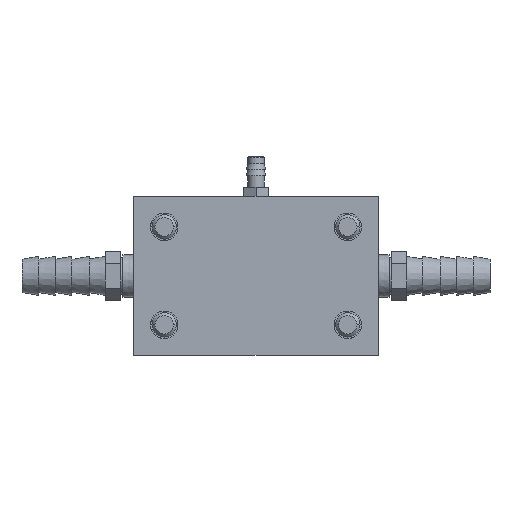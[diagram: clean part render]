
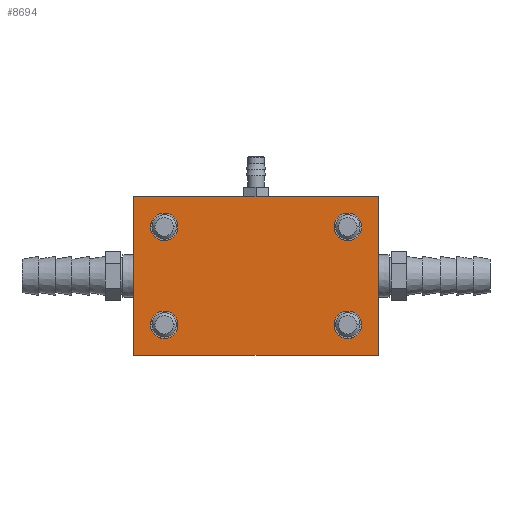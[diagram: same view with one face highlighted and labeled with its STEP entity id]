
A CAD part, left-side view. The second image highlights one B-rep face of the part: STEP entity #8694.
In plain terms, the highlighted planar face has unit normal (-1, 0, 0).
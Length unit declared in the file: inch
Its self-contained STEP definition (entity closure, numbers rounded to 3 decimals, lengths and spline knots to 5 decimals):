
#8432=CARTESIAN_POINT('',(-3.25,-0.9375,-0.5));
#8433=DIRECTION('',(1.,0.,0.));
#8434=DIRECTION('',(0.,-1.,0.));
#8435=AXIS2_PLACEMENT_3D('',#8432,#8433,#8434);
#8437=CARTESIAN_POINT('',(-3.25,-0.9375,-0.5));
#8438=DIRECTION('',(1.,0.,0.));
#8439=DIRECTION('',(0.,1.,0.));
#8440=AXIS2_PLACEMENT_3D('',#8437,#8438,#8439);
#8442=CARTESIAN_POINT('',(-3.25,0.9375,-0.5));
#8443=DIRECTION('',(1.,0.,0.));
#8444=DIRECTION('',(0.,-1.,0.));
#8445=AXIS2_PLACEMENT_3D('',#8442,#8443,#8444);
#8447=CARTESIAN_POINT('',(-3.25,0.9375,-0.5));
#8448=DIRECTION('',(1.,0.,0.));
#8449=DIRECTION('',(0.,1.,0.));
#8450=AXIS2_PLACEMENT_3D('',#8447,#8448,#8449);
#8452=CARTESIAN_POINT('',(-3.25,0.9375,0.5));
#8453=DIRECTION('',(1.,0.,0.));
#8454=DIRECTION('',(0.,-1.,0.));
#8455=AXIS2_PLACEMENT_3D('',#8452,#8453,#8454);
#8457=CARTESIAN_POINT('',(-3.25,0.9375,0.5));
#8458=DIRECTION('',(1.,0.,0.));
#8459=DIRECTION('',(0.,1.,0.));
#8460=AXIS2_PLACEMENT_3D('',#8457,#8458,#8459);
#8462=CARTESIAN_POINT('',(-3.25,-0.9375,0.5));
#8463=DIRECTION('',(1.,0.,0.));
#8464=DIRECTION('',(0.,-1.,0.));
#8465=AXIS2_PLACEMENT_3D('',#8462,#8463,#8464);
#8467=CARTESIAN_POINT('',(-3.25,-0.9375,0.5));
#8468=DIRECTION('',(1.,0.,0.));
#8469=DIRECTION('',(0.,1.,0.));
#8470=AXIS2_PLACEMENT_3D('',#8467,#8468,#8469);
#8564=DIRECTION('',(0.,0.,-1.));
#8565=VECTOR('',#8564,1.625);
#8566=CARTESIAN_POINT('',(-3.25,-1.25,0.8125));
#8567=LINE('',#8566,#8565);
#8572=DIRECTION('',(0.,1.,0.));
#8573=VECTOR('',#8572,2.5);
#8574=CARTESIAN_POINT('',(-3.25,-1.25,-0.8125));
#8575=LINE('',#8574,#8573);
#8576=DIRECTION('',(0.,0.,1.));
#8577=VECTOR('',#8576,1.625);
#8578=CARTESIAN_POINT('',(-3.25,1.25,-0.8125));
#8579=LINE('',#8578,#8577);
#8584=DIRECTION('',(0.,-1.,0.));
#8585=VECTOR('',#8584,2.5);
#8586=CARTESIAN_POINT('',(-3.25,1.25,0.8125));
#8587=LINE('',#8586,#8585);
#8596=CARTESIAN_POINT('',(-3.25,-1.25,-0.8125));
#8597=CARTESIAN_POINT('',(-3.25,1.25,-0.8125));
#8598=VERTEX_POINT('',#8596);
#8599=VERTEX_POINT('',#8597);
#8602=CARTESIAN_POINT('',(-3.25,-1.25,0.8125));
#8603=VERTEX_POINT('',#8602);
#8604=CARTESIAN_POINT('',(-3.25,1.25,0.8125));
#8605=VERTEX_POINT('',#8604);
#8608=CARTESIAN_POINT('',(-3.25,1.07813,0.5));
#8610=VERTEX_POINT('',#8608);
#8612=CARTESIAN_POINT('',(-3.25,0.79688,0.5));
#8614=VERTEX_POINT('',#8612);
#8616=CARTESIAN_POINT('',(-3.25,-0.79688,0.5));
#8618=VERTEX_POINT('',#8616);
#8620=CARTESIAN_POINT('',(-3.25,-1.07813,0.5));
#8622=VERTEX_POINT('',#8620);
#8624=CARTESIAN_POINT('',(-3.25,1.07813,-0.5));
#8626=VERTEX_POINT('',#8624);
#8628=CARTESIAN_POINT('',(-3.25,0.79688,-0.5));
#8630=VERTEX_POINT('',#8628);
#8632=CARTESIAN_POINT('',(-3.25,-0.79688,-0.5));
#8634=VERTEX_POINT('',#8632);
#8636=CARTESIAN_POINT('',(-3.25,-1.07813,-0.5));
#8638=VERTEX_POINT('',#8636);
#8656=CARTESIAN_POINT('',(-3.25,0.,0.));
#8657=DIRECTION('',(1.,0.,0.));
#8658=DIRECTION('',(0.,-1.,0.));
#8659=AXIS2_PLACEMENT_3D('',#8656,#8657,#8658);
#8660=PLANE('',#8659);
#8662=ORIENTED_EDGE('',*,*,#8661,.T.);
#8664=ORIENTED_EDGE('',*,*,#8663,.T.);
#8666=ORIENTED_EDGE('',*,*,#8665,.T.);
#8668=ORIENTED_EDGE('',*,*,#8667,.T.);
#8669=EDGE_LOOP('',(#8662,#8664,#8666,#8668));
#8670=FACE_OUTER_BOUND('',#8669,.F.);
#8672=ORIENTED_EDGE('',*,*,#8671,.F.);
#8674=ORIENTED_EDGE('',*,*,#8673,.F.);
#8675=EDGE_LOOP('',(#8672,#8674));
#8676=FACE_BOUND('',#8675,.F.);
#8677=ORIENTED_EDGE('',*,*,#8645,.F.);
#8679=ORIENTED_EDGE('',*,*,#8678,.F.);
#8680=EDGE_LOOP('',(#8677,#8679));
#8681=FACE_BOUND('',#8680,.F.);
#8683=ORIENTED_EDGE('',*,*,#8682,.F.);
#8685=ORIENTED_EDGE('',*,*,#8684,.F.);
#8686=EDGE_LOOP('',(#8683,#8685));
#8687=FACE_BOUND('',#8686,.F.);
#8689=ORIENTED_EDGE('',*,*,#8688,.F.);
#8691=ORIENTED_EDGE('',*,*,#8690,.F.);
#8692=EDGE_LOOP('',(#8689,#8691));
#8693=FACE_BOUND('',#8692,.F.);
#8436=CIRCLE('',#8435,0.14063);
#8441=CIRCLE('',#8440,0.14063);
#8446=CIRCLE('',#8445,0.14063);
#8451=CIRCLE('',#8450,0.14063);
#8456=CIRCLE('',#8455,0.14063);
#8461=CIRCLE('',#8460,0.14063);
#8466=CIRCLE('',#8465,0.14063);
#8471=CIRCLE('',#8470,0.14063);
#8645=EDGE_CURVE('',#8614,#8610,#8456,.T.);
#8661=EDGE_CURVE('',#8598,#8599,#8575,.T.);
#8663=EDGE_CURVE('',#8599,#8605,#8579,.T.);
#8665=EDGE_CURVE('',#8605,#8603,#8587,.T.);
#8667=EDGE_CURVE('',#8603,#8598,#8567,.T.);
#8671=EDGE_CURVE('',#8630,#8626,#8446,.T.);
#8673=EDGE_CURVE('',#8626,#8630,#8451,.T.);
#8678=EDGE_CURVE('',#8610,#8614,#8461,.T.);
#8682=EDGE_CURVE('',#8622,#8618,#8466,.T.);
#8684=EDGE_CURVE('',#8618,#8622,#8471,.T.);
#8688=EDGE_CURVE('',#8638,#8634,#8436,.T.);
#8690=EDGE_CURVE('',#8634,#8638,#8441,.T.);
#8694=ADVANCED_FACE('',(#8670,#8676,#8681,#8687,#8693),#8660,.F.);
